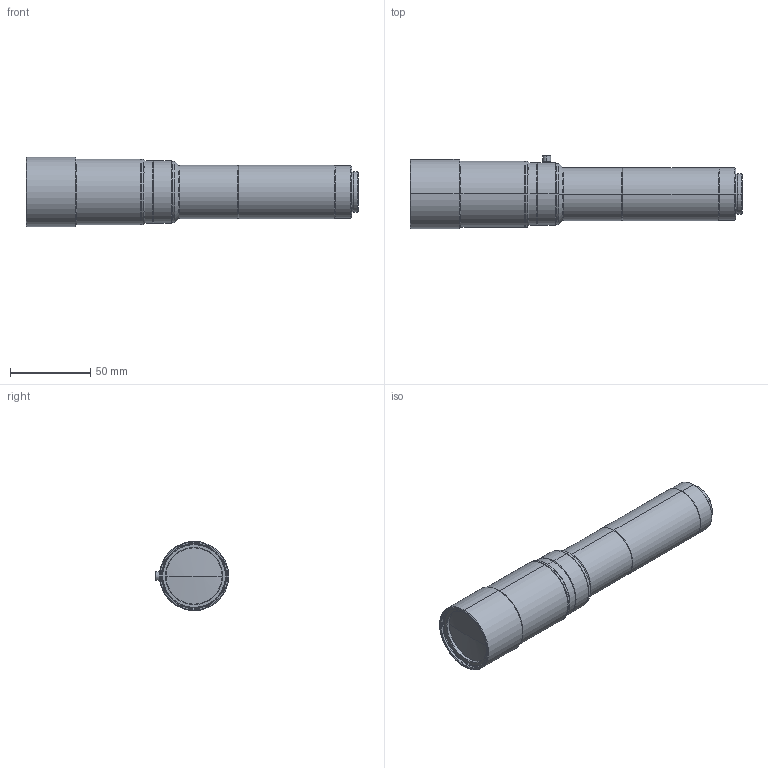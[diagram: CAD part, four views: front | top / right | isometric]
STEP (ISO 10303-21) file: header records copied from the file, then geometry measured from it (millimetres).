
FILE_DESCRIPTION (( 'STEP AP214' ), '1' );
FILE_NAME ('VS-THV2-80.STEP', '2018-05-21T05:20:21', ( '' ), ( '' ), 'SwSTEP 2.0', 'SolidWorks 2018', '' );
FILE_SCHEMA (( 'AUTOMOTIVE_DESIGN' ));
Length unit declared in the file: millimetre
Products named in the file (1): VS-THV2-80
Bounding box: 206.47 x 45.55 x 43 mm (x, y, z)
Volume: 213321.5 mm3; surface area: 27732 mm2
Topology: 1 solids, 1 shells, 118 faces, 236 edges, 135 vertices
Faces by surface type: cone 62, cylinder 38, plane 16, sphere 2
Entity records: 3100 total; most frequent: DIRECTION 606, CARTESIAN_POINT 522, ORIENTED_EDGE 472, AXIS2_PLACEMENT_3D 253, EDGE_CURVE 236, VERTEX_POINT 135, CIRCLE 134, EDGE_LOOP 133
